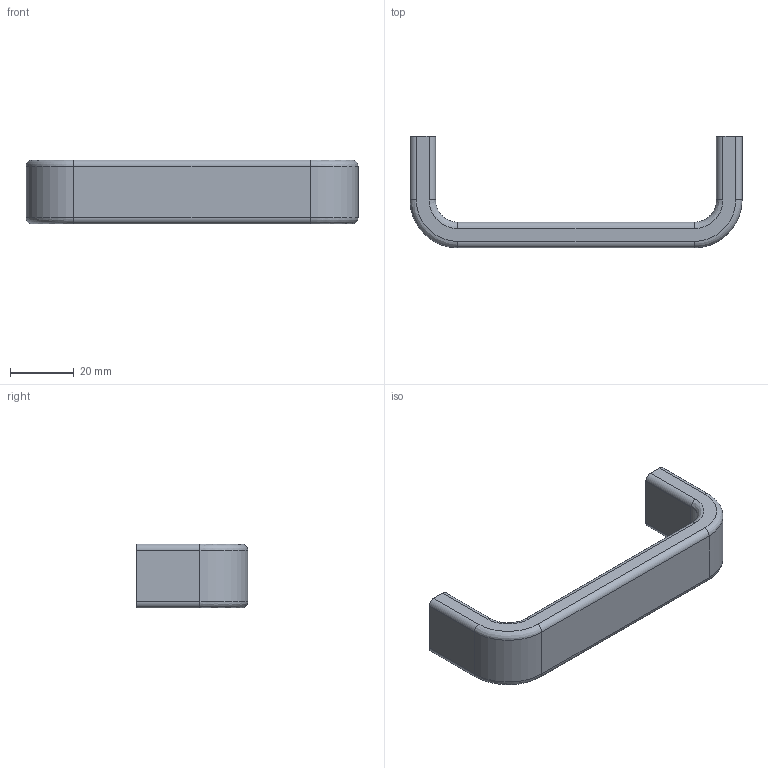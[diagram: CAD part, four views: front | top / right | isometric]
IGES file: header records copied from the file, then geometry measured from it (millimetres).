
Start section: Data from Parasolid IGES Translator 15.0.47, Copyright(c) 2006 Siemens P LM Software. All Rights Reserved.
Global section: file name:  115146.igs; native system:  By UGS Corp.; preprocessor: XPlus GENERIC/IGES 3.0; author: Noname; organization: Noname; date: 20140122.160053; units: millimetre
Bounding box: 104 x 35 x 20 mm (x, y, z)
Surface area: 8436.4 mm2 (no closed solid volume)
Topology: 0 solids, 0 shells, 38 faces, 172 edges, 170 vertices
Faces by surface type: revolution 26, extrusion 12
